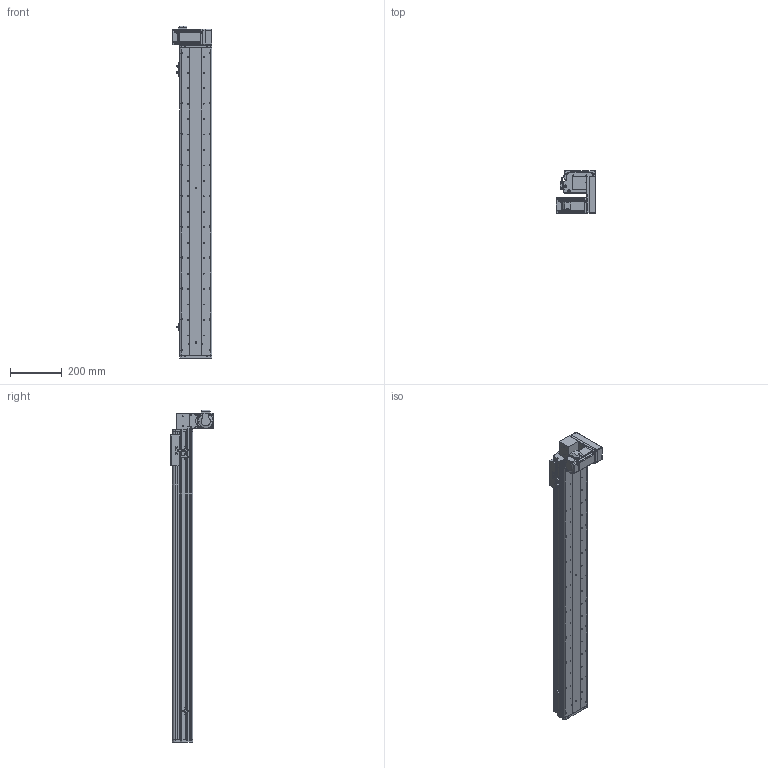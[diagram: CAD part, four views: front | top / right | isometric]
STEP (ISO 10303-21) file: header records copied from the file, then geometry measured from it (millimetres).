
FILE_DESCRIPTION (( 'STEP AP214' ), '1' );
FILE_NAME ('KSD125B-S1000-MLD-CM.STEP', '2017-10-21T02:29:39', ( '微软用户' ), ( '微软中国' ), 'SwSTEP 2.0', 'SolidWorks 2014', '' );
FILE_SCHEMA (( 'AUTOMOTIVE_DESIGN' ));
Length unit declared in the file: millimetre
Products named in the file (17): 覜茼え68遵圉猾敕; U倰嫖萇假蚾璃; U倰嫖萇EEㄜSX672; KSD125模组同步带-防撞垫1; 前端板-125宽模组同步带; 125模组同步带-尾端板1; KSD125模组同步带-滑动座1; KSD125B-S1000-MLD-CM; 悵誘欶奻狟殏; 100宽马达安装板连板上下折丝杆同步带; HTPA30S3M150_A_H6_a佪裝蚚; HTPA30S3M150_A_H6_a萇儂蚚; 100宽马达安装板同步带左; KSD125模组1000行程同步带-防尘盖; 125模组1000行程同步带-底板; MHMD042G1CA_2_03; KSD125模组同步带-防撞垫2
Assembly tree (20 placements, depth 2):
  KSD125B-S1000-MLD-CM
    KSD125模组同步带-滑动座1
    125模组同步带-尾端板1
    前端板-125宽模组同步带
    KSD125模组同步带-防撞垫1
    U倰嫖萇EEㄜSX672  x3
    U倰嫖萇假蚾璃  x3
    覜茼え68遵圉猾敕
    KSD125模组同步带-防撞垫2
    MHMD042G1CA_2_03
    125模组1000行程同步带-底板
    KSD125模组1000行程同步带-防尘盖
    100宽马达安装板同步带左
    HTPA30S3M150_A_H6_a萇儂蚚
    HTPA30S3M150_A_H6_a佪裝蚚
    100宽马达安装板连板上下折丝杆同步带
    悵誘欶奻狟殏
Bounding box: 155 x 166.5 x 1289 mm (x, y, z)
Volume: 3926381.1 mm3; surface area: 1320130.5 mm2
Topology: 19 solids, 22 shells, 2311 faces, 6697 edges, 4426 vertices
Faces by surface type: cylinder 1456, plane 728, cone 105, bspline 22
Entity records: 82343 total; most frequent: CARTESIAN_POINT 16239, DIRECTION 12798, ORIENTED_EDGE 11914, EDGE_CURVE 6035, AXIS2_PLACEMENT_3D 4953, VERTEX_POINT 4018, VECTOR 2892, LINE 2892
